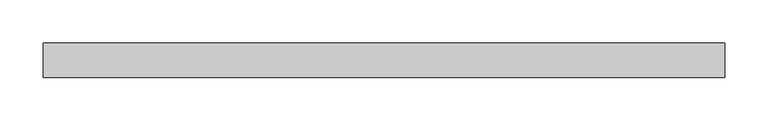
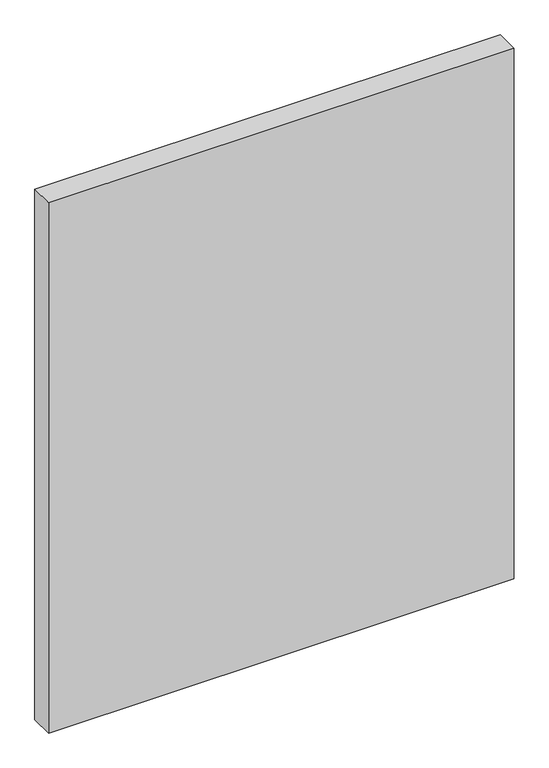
"""IFC4 building model written with IfcOpenShell, lengths in millimetres: plate geometry, Panneau système : Vitré."""

from ifc_helpers import new_model, si_unit, origin, origin_with_axes, place, context, project, spatial, polyline, outline, extrude, source, transform, mapped, element, save


def plate_de53746c(model_context):
    return source(origin(), model_context, "Body", "SweptSolid", [
        extrude(outline(polyline([(394.5456728, 5.0), (-394.5456728, 5.0), (-394.5456728, 45.0), (394.5456728, 45.0), (394.5456728, 5.0)])), origin_with_axes(), (0.0, 0.0, 1.0), 950.0),
    ])


if __name__ == "__main__":
    model = new_model("IFC4")
    model_context = context("Model", 3, world=origin())
    ifc_project = project(units=[si_unit("LENGTHUNIT", "METRE", prefix="MILLI")], contexts=[model_context])
    site = spatial("IfcSite", under=ifc_project)
    building = spatial("IfcBuilding", under=site)
    placement = place(None, origin())
    plate_shape = plate_de53746c(model_context)
    element("IfcPlate", 1, ObjectType="Panneau système : Vitré", at=placement, inside=building, context=model_context, shape_type="MappedRepresentation", body=[
        mapped(plate_shape, transform((0.0, 0.0, 0.0), x_axis=(1.0, 0.0, 0.0), y_axis=(0.0, 1.0, 0.0), z_axis=(0.0, 0.0, 1.0))),
    ])
    save(model, "model.ifc")
